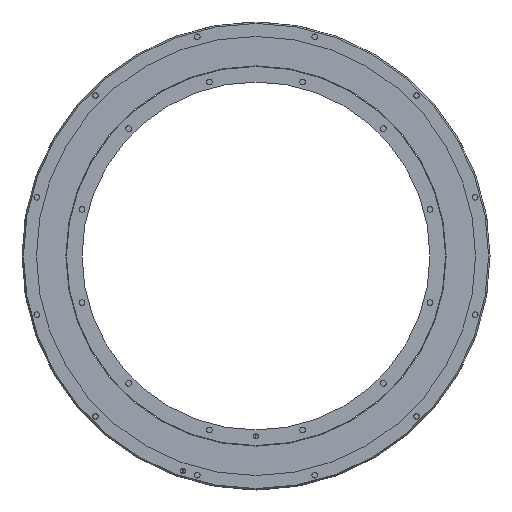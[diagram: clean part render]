
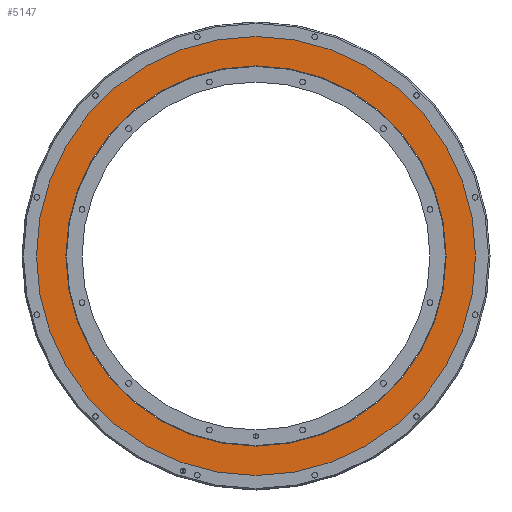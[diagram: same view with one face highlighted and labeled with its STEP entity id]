
A CAD part, front view. The second image highlights one B-rep face of the part: STEP entity #5147.
In plain terms, the highlighted planar face has unit normal (0, -1, 0).
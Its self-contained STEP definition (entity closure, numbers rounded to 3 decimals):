
#496 = DIRECTION ( 'NONE',  ( 0., -1., 0. ) ) ;
#529 = AXIS2_PLACEMENT_3D ( 'NONE', #1493, #2084, #5741 ) ;
#893 = PLANE ( 'NONE',  #4849 ) ;
#914 = CARTESIAN_POINT ( 'NONE',  ( 229.5, 1., 0. ) ) ;
#1027 = CARTESIAN_POINT ( 'NONE',  ( 0., 1., 0. ) ) ;
#1076 = AXIS2_PLACEMENT_3D ( 'NONE', #1027, #2143, #4169 ) ;
#1191 = CIRCLE ( 'NONE', #2634, 229.5 ) ;
#1308 = VERTEX_POINT ( 'NONE', #1776 ) ;
#1327 = CARTESIAN_POINT ( 'NONE',  ( 0., 1., 229.5 ) ) ;
#1335 = FACE_OUTER_BOUND ( 'NONE', #5029, .T. ) ;
#1401 = ORIENTED_EDGE ( 'NONE', *, *, #4132, .T. ) ;
#1493 = CARTESIAN_POINT ( 'NONE',  ( 0., 1., 0. ) ) ;
#1616 = EDGE_LOOP ( 'NONE', ( #2515, #3307 ) ) ;
#1623 = CARTESIAN_POINT ( 'NONE',  ( 0., 1., 0. ) ) ;
#1776 = CARTESIAN_POINT ( 'NONE',  ( 0., 1., -265. ) ) ;
#2084 = DIRECTION ( 'NONE',  ( 0., -1., 0. ) ) ;
#2143 = DIRECTION ( 'NONE',  ( 0., -1., 0. ) ) ;
#2362 = CIRCLE ( 'NONE', #529, 229.5 ) ;
#2444 = VERTEX_POINT ( 'NONE', #1327 ) ;
#2492 = DIRECTION ( 'NONE',  ( 0., 0., -1. ) ) ;
#2515 = ORIENTED_EDGE ( 'NONE', *, *, #3693, .F. ) ;
#2594 = DIRECTION ( 'NONE',  ( 0., 0., -1. ) ) ;
#2634 = AXIS2_PLACEMENT_3D ( 'NONE', #1623, #496, #2594 ) ;
#2667 = EDGE_CURVE ( 'NONE', #5008, #1308, #4693, .T. ) ;
#2743 = FACE_BOUND ( 'NONE', #1616, .T. ) ;
#3146 = DIRECTION ( 'NONE',  ( 0., -1., 0. ) ) ;
#3307 = ORIENTED_EDGE ( 'NONE', *, *, #4405, .F. ) ;
#3656 = CARTESIAN_POINT ( 'NONE',  ( 0., 1., 0. ) ) ;
#3693 = EDGE_CURVE ( 'NONE', #5173, #2444, #2362, .T. ) ;
#3704 = CARTESIAN_POINT ( 'NONE',  ( 0., 1., 265. ) ) ;
#3796 = DIRECTION ( 'NONE',  ( 0., 0., -1. ) ) ;
#4132 = EDGE_CURVE ( 'NONE', #1308, #5008, #6868, .T. ) ;
#4169 = DIRECTION ( 'NONE',  ( 0., 0., -1. ) ) ;
#4405 = EDGE_CURVE ( 'NONE', #2444, #5173, #1191, .T. ) ;
#4552 = DIRECTION ( 'NONE',  ( 0., -1., 0. ) ) ;
#4693 = CIRCLE ( 'NONE', #1076, 265. ) ;
#4849 = AXIS2_PLACEMENT_3D ( 'NONE', #914, #4552, #2492 ) ;
#5008 = VERTEX_POINT ( 'NONE', #3704 ) ;
#5029 = EDGE_LOOP ( 'NONE', ( #1401, #6148 ) ) ;
#5147 = ADVANCED_FACE ( 'NONE', ( #1335, #2743 ), #893, .T. ) ;
#5173 = VERTEX_POINT ( 'NONE', #6210 ) ;
#5741 = DIRECTION ( 'NONE',  ( 0., 0., -1. ) ) ;
#6130 = AXIS2_PLACEMENT_3D ( 'NONE', #3656, #3146, #3796 ) ;
#6148 = ORIENTED_EDGE ( 'NONE', *, *, #2667, .T. ) ;
#6210 = CARTESIAN_POINT ( 'NONE',  ( 0., 1., -229.5 ) ) ;
#6868 = CIRCLE ( 'NONE', #6130, 265. ) ;
